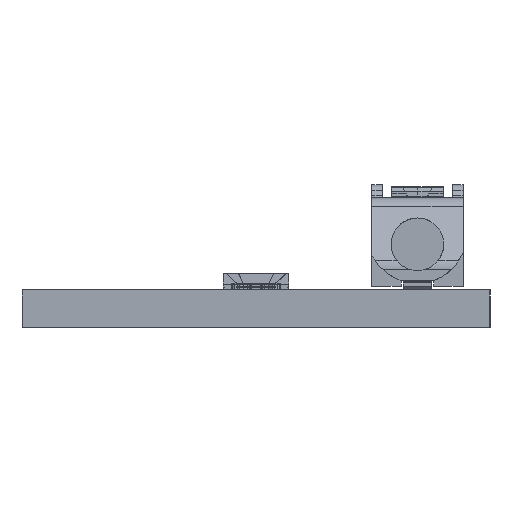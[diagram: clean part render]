
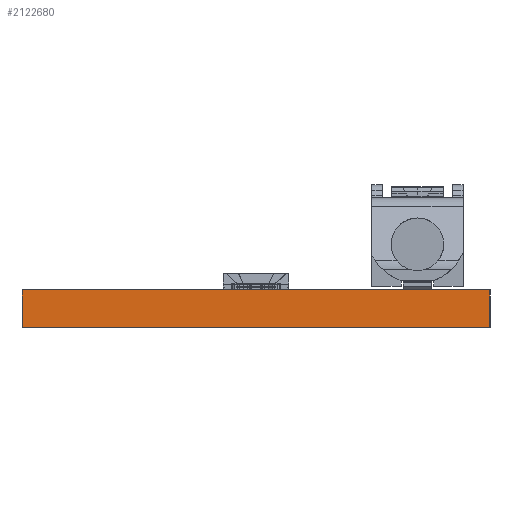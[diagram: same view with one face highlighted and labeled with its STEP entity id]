
A CAD part, left-side view. The second image highlights one B-rep face of the part: STEP entity #2122680.
In plain terms, the highlighted planar face has unit normal (-1, 0, 0).
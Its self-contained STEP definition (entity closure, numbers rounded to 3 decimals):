
#2103430=CARTESIAN_POINT('',(-0.286,21.548,0.));
#2103440=DIRECTION('',(0.,1.,0.));
#2103450=VECTOR('',#2103440,0.039);
#2103460=LINE('',#2103430,#2103450);
#2103470=CARTESIAN_POINT('',(-0.286,21.548,0.));
#2103480=VERTEX_POINT('',#2103470);
#2103490=CARTESIAN_POINT('',(-0.286,41.548,0.));
#2103500=VERTEX_POINT('',#2103490);
#2103510=EDGE_CURVE('',#2103480,#2103500,#2103460,.T.);
#2109820=CARTESIAN_POINT('',(-0.286,21.548,-1.6));
#2109830=VERTEX_POINT('',#2109820);
#2111960=CARTESIAN_POINT('',(-0.286,41.548,-1.6));
#2111970=VERTEX_POINT('',#2111960);
#2112000=CARTESIAN_POINT('',(-0.286,21.548,-1.6));
#2112010=DIRECTION('',(0.,1.,0.));
#2112020=VECTOR('',#2112010,0.039);
#2112030=LINE('',#2112000,#2112020);
#2112040=EDGE_CURVE('',#2109830,#2111970,#2112030,.T.);
#2116170=CARTESIAN_POINT('',(-0.286,21.548,0.));
#2116180=DIRECTION('',(0.,0.,-1.));
#2116190=VECTOR('',#2116180,1.);
#2116200=LINE('',#2116170,#2116190);
#2116210=EDGE_CURVE('',#2103480,#2109830,#2116200,.T.);
#2122390=CARTESIAN_POINT('',(-0.286,41.548,0.));
#2122400=DIRECTION('',(0.,0.,-1.));
#2122410=VECTOR('',#2122400,1.);
#2122420=LINE('',#2122390,#2122410);
#2122430=EDGE_CURVE('',#2103500,#2111970,#2122420,.T.);
#2122570=CARTESIAN_POINT('',(-0.286,21.548,0.));
#2122580=DIRECTION('',(1.,0.,0.));
#2122590=DIRECTION('',(0.,-1.,0.));
#2122600=AXIS2_PLACEMENT_3D('',#2122570,#2122580,#2122590);
#2122610=PLANE('',#2122600);
#2122620=ORIENTED_EDGE('',*,*,#2103510,.T.);
#2122630=ORIENTED_EDGE('',*,*,#2116210,.F.);
#2122640=ORIENTED_EDGE('',*,*,#2112040,.F.);
#2122650=ORIENTED_EDGE('',*,*,#2122430,.T.);
#2122660=EDGE_LOOP('',(#2122650,#2122640,#2122630,#2122620));
#2122670=FACE_OUTER_BOUND('',#2122660,.T.);
#2122680=ADVANCED_FACE('',(#2122670),#2122610,.F.);
